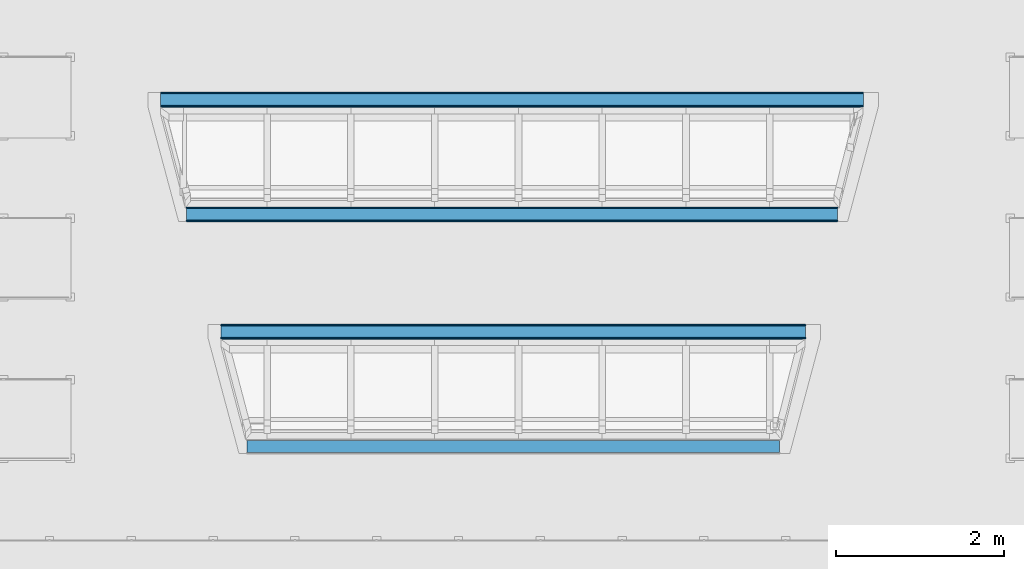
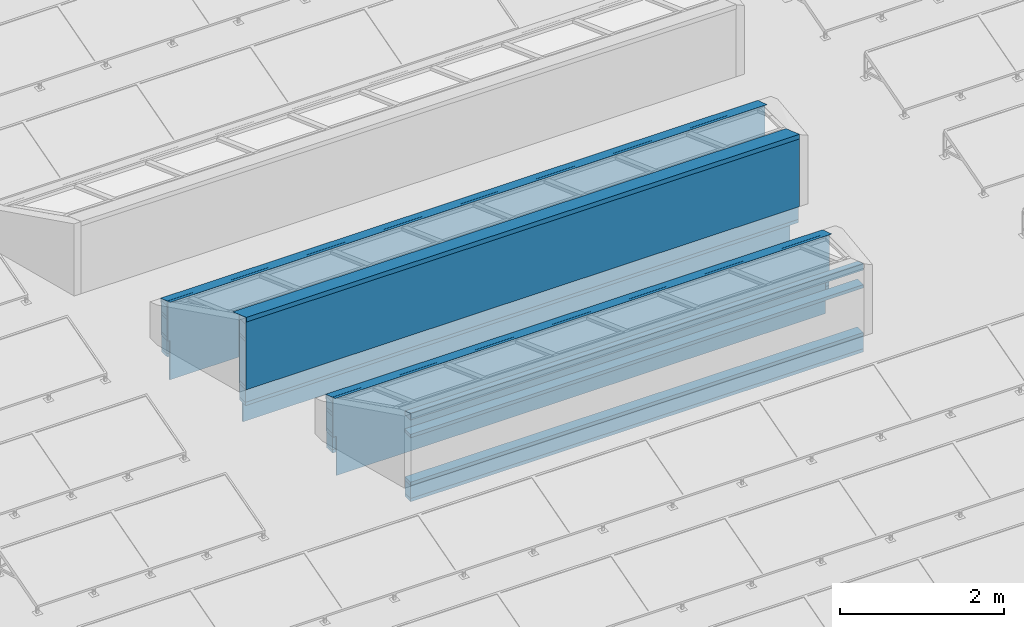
# One storey, part 11 of 20: 35 building element parts, 4 elements without a shape of their own.
"""IFC2X3 building model written with IfcOpenShell, lengths in millimetres."""

import ifcopenshell
import ifcopenshell.guid

model = None  # the IFC model being written
_history = None  # IfcOwnerHistory: only IFC2X3 demands one
_inside = {}  # id of a spatial element -> (the spatial element, [elements in it])
_under = {}  # id of a project, library or spatial element -> (it, [spatial elements below it])
_declared = {}  # id of a project -> (the project, [libraries it declares])
_typed = {}  # id of a type object -> (the type object, [elements of that type])
_made_of = {}  # id of a material, layer set ... -> (it, [elements and type objects made of it])


def new_model(schema):
    """Start an empty IFC model of exactly this schema.

    Asked for "IFC4X3", IfcOpenShell would pick the latest addendum, in which some entities
    have other attributes; the version numbers below select the first issue.
    IFC2X3 requires an IfcOwnerHistory on every rooted entity: one is made here for all.
    """
    global model, _history
    if schema == "IFC4X3":
        model = ifcopenshell.file(schema_version=(4, 3, 0, 0))
    else:
        model = ifcopenshell.file(schema=schema)
    _inside.clear()
    _under.clear()
    _declared.clear()
    _typed.clear()
    _made_of.clear()
    _history = None
    if model.schema == "IFC2X3":
        org = make("IfcOrganization", Name="unknown")
        user = make(
            "IfcPersonAndOrganization",
            ThePerson=make("IfcPerson", FamilyName="unknown"),
            TheOrganization=org,
        )
        app = make(
            "IfcApplication",
            ApplicationDeveloper=org,
            Version="unknown",
            ApplicationFullName="unknown",
            ApplicationIdentifier="unknown",
        )
        _history = make(
            "IfcOwnerHistory",
            OwningUser=user,
            OwningApplication=app,
            ChangeAction="ADDED",
            CreationDate=0,
        )
    return model


def make(cls, **values):
    """One entity of the class cls with the attributes given. An attribute that is None is left unset."""
    return model.create_entity(
        cls, **{name: value for name, value in values.items() if value is not None}
    )


def entity(cls, *values):
    """Any entity or typed value of the class cls, its attributes in the order of the schema. None: left unset."""
    e = model.create_entity(cls)
    for i, value in enumerate(values):
        if value is not None:
            e[i] = value
    return e


def rooted(cls, **values):
    """An entity with a GlobalId (a new one), such as an element, a storey or a relation."""
    return make(cls, GlobalId=ifcopenshell.guid.new(), OwnerHistory=_history, **values)


def si_unit(unit_type, name, prefix=None):
    """IfcSIUnit, for example si_unit("LENGTHUNIT", "METRE", prefix="MILLI")."""
    return make("IfcSIUnit", UnitType=unit_type, Prefix=prefix, Name=name)


def converted_unit(unit_type, name, factor, base, dimensions=None, offset=None):
    """IfcConversionBasedUnit, such as the inch: factor (a typed value) times the base unit."""
    return make(
        "IfcConversionBasedUnit"
        if offset is None
        else "IfcConversionBasedUnitWithOffset",
        ConversionOffset=offset,
        Dimensions=None
        if dimensions is None
        else entity("IfcDimensionalExponents", *dimensions),
        UnitType=unit_type,
        Name=name,
        ConversionFactor=make(
            "IfcMeasureWithUnit", ValueComponent=factor, UnitComponent=base
        ),
    )


def derived_unit(unit_type, elements):
    """IfcDerivedUnit: a product of units, each with its exponent."""
    return make(
        "IfcDerivedUnit",
        Elements=[
            make("IfcDerivedUnitElement", Unit=unit, Exponent=power)
            for unit, power in elements
        ],
        UnitType=unit_type,
    )


def money_unit(currency):
    """IfcMonetaryUnit."""
    return make("IfcMonetaryUnit", Currency=currency)


def assignment(units):
    """IfcUnitAssignment: the units of a project."""
    return None if units is None else make("IfcUnitAssignment", Units=units)


def point(xyz):
    """IfcCartesianPoint."""
    return None if xyz is None else make("IfcCartesianPoint", Coordinates=xyz)


def direction(xyz):
    """IfcDirection."""
    return None if xyz is None else make("IfcDirection", DirectionRatios=xyz)


def frame(location, z_axis=None, x_axis=None):
    """IfcAxis2Placement3D, a coordinate frame: its origin and axes. An axis left out is left unset."""
    return make(
        "IfcAxis2Placement3D",
        Location=point(location),
        Axis=direction(z_axis),
        RefDirection=direction(x_axis),
    )


def origin_with_axes():
    """The frame at (0, 0, 0) with the z axis (0, 0, 1) and the x axis (1, 0, 0) written out."""
    return frame((0.0, 0.0, 0.0), z_axis=(0.0, 0.0, 1.0), x_axis=(1.0, 0.0, 0.0))


def place(relative_to, where):
    """IfcLocalPlacement: puts the frame where relative to a parent placement (None: the world)."""
    return make(
        "IfcLocalPlacement", PlacementRelTo=relative_to, RelativePlacement=where
    )


def context(
    kind, dimensions, precision=None, world=None, true_north=None, identifier=None
):
    """IfcGeometricRepresentationContext, for example the 3D "Model" context."""
    return make(
        "IfcGeometricRepresentationContext",
        ContextIdentifier=identifier,
        ContextType=kind,
        CoordinateSpaceDimension=dimensions,
        Precision=precision,
        WorldCoordinateSystem=world,
        TrueNorth=true_north,
    )


def subcontext(parent, identifier, kind, view, scale=None):
    """IfcGeometricRepresentationSubContext, for example "Body" below "Model"."""
    return make(
        "IfcGeometricRepresentationSubContext",
        ContextIdentifier=identifier,
        ContextType=kind,
        ParentContext=parent,
        TargetScale=scale,
        TargetView=view,
    )


def project(units=None, contexts=None):
    """IfcProject with its units and contexts."""
    return rooted(
        "IfcProject",
        Name="project",
        RepresentationContexts=contexts,
        UnitsInContext=assignment(units),
    )


def spatial(cls, under=None, at=None, **own):
    """A site, building, storey or space (cls), placed at a placement, below another one or the project."""
    s = rooted(cls, ObjectPlacement=at, **own)
    if under is not None:
        _under.setdefault(under.id(), (under, []))[1].append(s)
    return s


def faces_of(points, faces, orient=None, outer=None):
    """IfcFace entities. A face is a list of loops; a loop is a list of indices into points, from 0.

    orient and outer hold one flag for each loop. By default every Orientation is true, the
    first loop of a face is its IfcFaceOuterBound and the others are IfcFaceBound.
    """
    made = []
    for i, loops in enumerate(faces):
        bounds = []
        for j, loop in enumerate(loops):
            is_outer = j == 0 if outer is None else outer[i][j]
            bounds.append(
                make(
                    "IfcFaceOuterBound" if is_outer else "IfcFaceBound",
                    Bound=make("IfcPolyLoop", Polygon=[points[k] for k in loop]),
                    Orientation=True if orient is None else orient[i][j],
                )
            )
        made.append(make("IfcFace", Bounds=bounds))
    return made


def faceted_brep(points, faces, orient=None, outer=None, voids=None):
    """IfcFacetedBrep: a solid bounded by flat faces; with voids (closed shells), ...WithVoids."""
    shared = [point(p) for p in points]
    hull = make("IfcClosedShell", CfsFaces=faces_of(shared, faces, orient, outer))
    if voids is None:
        return make("IfcFacetedBrep", Outer=hull)
    return make(
        "IfcFacetedBrepWithVoids",
        Outer=hull,
        Voids=[
            make(cls, CfsFaces=faces_of(shared, fs, o, b)) for cls, fs, o, b in voids
        ],
    )


def shape(context_of_items, identifier, shape_type, items):
    """IfcShapeRepresentation: the items that make up one representation, for example the "Body"."""
    return make(
        "IfcShapeRepresentation",
        ContextOfItems=context_of_items,
        RepresentationIdentifier=identifier,
        RepresentationType=shape_type,
        Items=items,
    )


def material(Name=None, Category=None):
    """IfcMaterial."""
    return make("IfcMaterial", Name=Name, Category=Category)


def made_of(thing, what):
    """Note that an element or type object is made of a material, layer set ...; save() writes the relation."""
    if what is not None:
        _made_of.setdefault(what.id(), (what, []))[1].append(thing)
    return thing


def type_object(cls, material=None, **own):
    """A type object (cls), such as IfcWallType, which elements share."""
    return made_of(rooted(cls, **own), material)


def element(
    cls,
    number,
    at=None,
    inside=None,
    cuts=None,
    type_object=None,
    material=None,
    context=None,
    identifier="Body",
    shape_type=None,
    held_by="IfcProductDefinitionShape",
    body=None,
    shapes=None,
    **own,
):
    """One element of the class cls, such as IfcWall. Its Tag is "e" and its number.

    at: its placement. inside: the storey or other place that contains it. cuts: it is an
    opening in that element (IfcRelVoidsElement). A single representation is given by context,
    identifier, shape_type and body (its items); several are given by shapes. held_by: the class
    of the entity that holds the representations. save() writes the other relations.
    """
    e = rooted(cls, Tag="e%d" % number, ObjectPlacement=at, **own)
    if body is not None:
        shapes = [shape(context, identifier, shape_type, body)]
    if shapes is not None:
        e.Representation = make(held_by, Representations=shapes)
    if inside is not None:
        _inside.setdefault(inside.id(), (inside, []))[1].append(e)
    if cuts is not None:
        rooted(
            "IfcRelVoidsElement", RelatingBuildingElement=cuts, RelatedOpeningElement=e
        )
    if type_object is not None:
        _typed.setdefault(type_object.id(), (type_object, []))[1].append(e)
    return made_of(e, material)


def aggregate(whole, parts):
    """IfcRelAggregates: a whole, such as a stair, and the parts it consists of."""
    return rooted("IfcRelAggregates", RelatingObject=whole, RelatedObjects=parts)


def save(model, path):
    """Write the relations noted so far, then the file.

    IfcRelAggregates (storeys below a building ...), IfcRelContainedInSpatialStructure (elements
    in a storey), IfcRelDefinesByType, IfcRelAssociatesMaterial and IfcRelDeclares: one each for
    every whole, place, type object, material and project.
    """
    for whole, parts in _under.values():
        aggregate(whole, parts)
    for where, things in _inside.values():
        rooted(
            "IfcRelContainedInSpatialStructure",
            RelatedElements=things,
            RelatingStructure=where,
        )
    for kind, things in _typed.values():
        rooted("IfcRelDefinesByType", RelatedObjects=things, RelatingType=kind)
    for what, things in _made_of.values():
        rooted("IfcRelAssociatesMaterial", RelatedObjects=things, RelatingMaterial=what)
    for by, libraries in _declared.values():
        rooted("IfcRelDeclares", RelatingContext=by, RelatedDefinitions=libraries)
    model.write(path)


model = new_model("IFC2X3")

# Units and contexts
model_context = context("Model", 3, precision=0.01, world=origin_with_axes(), true_north=direction((0.0, 1.0)))
plan_context = context("Plan", 3, precision=0.01, world=origin_with_axes(), true_north=direction((0.0, 1.0)))
body_context = subcontext(model_context, "Body", "Model", "MODEL_VIEW")
ifc_project = project(units=[si_unit("LENGTHUNIT", "METRE", prefix="MILLI"), si_unit("AREAUNIT", "SQUARE_METRE"), si_unit("VOLUMEUNIT", "CUBIC_METRE"), converted_unit("PLANEANGLEUNIT", "DEGREE", entity("IfcPlaneAngleMeasure", 0.0174532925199), si_unit("PLANEANGLEUNIT", "RADIAN"), dimensions=[0, 0, 0, 0, 0, 0, 0]), si_unit("SOLIDANGLEUNIT", "STERADIAN"), money_unit("EUR"), converted_unit("TIMEUNIT", "Year", entity("IfcTimeMeasure", 31556926.0), si_unit("TIMEUNIT", "SECOND"), dimensions=[0, 0, 1, 0, 0, 0, 0]), si_unit("MASSUNIT", "GRAM", prefix="KILO"), si_unit("THERMODYNAMICTEMPERATUREUNIT", "DEGREE_CELSIUS"), si_unit("LUMINOUSINTENSITYUNIT", "LUMEN"), si_unit("ENERGYUNIT", "JOULE", prefix="MEGA"), derived_unit("THERMALCONDUCTANCEUNIT", [(si_unit("POWERUNIT", "WATT"), 1), (si_unit("LENGTHUNIT", "METRE"), -1), (si_unit("THERMODYNAMICTEMPERATUREUNIT", "KELVIN"), -1)]), derived_unit("SPECIFICHEATCAPACITYUNIT", [(si_unit("ENERGYUNIT", "JOULE"), 1), (si_unit("MASSUNIT", "GRAM", prefix="KILO"), -1), (si_unit("THERMODYNAMICTEMPERATUREUNIT", "KELVIN"), -1)]), derived_unit("MASSDENSITYUNIT", [(si_unit("MASSUNIT", "GRAM", prefix="KILO"), 1), (si_unit("VOLUMEUNIT", "CUBIC_METRE"), -1)])], contexts=[model_context, plan_context])

# Site, building, storey
site_placement = place(None, origin_with_axes())
site = spatial("IfcSite", under=ifc_project, at=site_placement, Name="Site", CompositionType="ELEMENT")
building_placement = place(site_placement, origin_with_axes())
building = spatial("IfcBuilding", under=site, at=building_placement, Name="Naam gebouw", CompositionType="ELEMENT")
storey_placement = place(building_placement, frame((0.0, 0.0, 7920.0), z_axis=(0.0, 0.0, 1.0), x_axis=(1.0, 0.0, 0.0)))
storey = spatial("IfcBuildingStorey", under=building, at=storey_placement, Name="2e verdieping", CompositionType="ELEMENT", Elevation=7920.0)

# Beam, building element parts
beam_type_1 = type_object("IfcBeamType", Name="_TenW_27_lichtstraatrand 01 331 x 1666", PredefinedType="BEAM")
beam_1_placement = place(storey_placement, frame((13576.0133521, 20989.9869254, 0.0), z_axis=(0.0, 0.0, 1.0), x_axis=(0.0, -1.0, 0.0)))
beam_1 = element("IfcBeam", 1, at=beam_1_placement, inside=storey, type_object=beam_type_1, Name="28_Balk_Regenwaterafvoer-x", ObjectType="BEAM")
ifc_material_1 = material(Name="Hout - Multiplex groen")
building_element_part_1_placement = place(beam_1_placement, origin_with_axes())
building_element_part_1 = element("IfcBuildingElementPart", 2, at=building_element_part_1_placement, material=ifc_material_1, Name="Hout - Multiplex groen", context=body_context, shape_type="Brep", body=[
    faceted_brep([(154.991493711, 7772.87741318, 245.0), (139.99969402, 7772.87741318, 245.0), (139.999710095, 7772.87741318, 1315.97099684), (154.955420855, 7772.87741318, 1321.37430351), (139.99969402, 0.0, 245.0), (154.991493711, 0.0, 245.0), (139.999710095, 0.0, 1315.97099684), (154.955420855, 0.0, 1321.37430351)], [[[0, 1, 2, 3]], [[4, 1, 0, 5]], [[1, 4, 6, 2]], [[7, 3, 2, 6]], [[5, 0, 3, 7]], [[4, 5, 7, 6]]]),
])
ifc_material_2 = material(Name="Hout - Multiplex wit")
building_element_part_2_placement = place(beam_1_placement, origin_with_axes())
building_element_part_2 = element("IfcBuildingElementPart", 3, at=building_element_part_2_placement, material=ifc_material_2, Name="Hout - Multiplex wit", context=body_context, shape_type="Brep", body=[
    faceted_brep([(3.85360010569e-06, 7730.78284458, 245.0), (3.85360010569e-06, 7772.87741318, 245.0), (3.85360010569e-06, 7772.87741318, 1265.26127855), (3.85360010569e-06, 0.0, 1265.26127855), (3.85360010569e-06, 0.0, 245.0), (3.85360010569e-06, 48.0535202, 245.0), (3.85360010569e-06, 48.0535202, 0.0), (3.85360010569e-06, 7730.78284458, 0.0), (-14.9999970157, 7734.64217737, 245.0), (-14.9999970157, 7772.87741318, 245.0), (-14.9999970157, 7772.87741318, 1260.28052611), (-14.9999970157, 0.0, 1260.28052611), (-14.9999970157, 0.0, 245.0), (-14.9999970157, 44.0342820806, 245.0), (-14.9999970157, 44.0342820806, -340.0), (3.85360010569e-06, 48.0535202, -340.0), (3.85360010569e-06, 7730.78284458, -340.0), (-14.9999970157, 7734.64217737, -340.0)], [[[0, 1, 2, 3, 4, 5, 6, 7]], [[8, 9, 1, 0]], [[1, 9, 10, 2]], [[11, 3, 2, 10]], [[12, 4, 3, 11]], [[5, 4, 12, 13]], [[5, 13, 14, 15, 6]], [[6, 15, 16, 7]], [[8, 0, 7, 16, 17]], [[8, 17, 14, 13, 12, 11, 10, 9]], [[15, 14, 17, 16]]]),
])
ifc_material_3 = material(Name="Metaal - Aluminium")
building_element_part_3_placement = place(beam_1_placement, origin_with_axes())
building_element_part_3 = element("IfcBuildingElementPart", 4, at=building_element_part_3_placement, material=ifc_material_3, Name="Metaal - Aluminium", context=body_context, shape_type="Brep", body=[
    faceted_brep([(163.31299662, 7772.87741318, 1325.52243299), (-91.4527412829, 7772.87741318, 1235.74767224), (-91.4527412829, 0.0, 1235.74767224), (163.31299662, 0.0, 1325.52243299), (163.31299662, 7772.87741318, 1257.83227189), (161.31299662, 7772.87741318, 1257.83227189), (161.31299662, 7772.87741318, 1323.63833662), (-167.391151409, 7772.87741318, 1206.58182347), (-168.062106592, 7772.87741318, 1208.46591984), (-168.062106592, 0.0, 1208.46591984), (-167.391151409, 0.0, 1206.58182347), (161.31299662, 0.0, 1323.63833662), (161.31299662, 0.0, 1257.83227189), (163.31299662, 0.0, 1257.83227189)], [[[0, 1, 2, 3]], [[0, 4, 5, 6, 7, 8, 1]], [[1, 8, 9, 2]], [[3, 2, 9, 10, 11, 12, 13]], [[4, 0, 3, 13]], [[5, 4, 13, 12]], [[6, 5, 12, 11]], [[7, 6, 11, 10]], [[8, 7, 10, 9]]]),
])
ifc_material_4 = material(Name="Isolatie - Kunststof hard")
building_element_part_4_placement = place(beam_1_placement, origin_with_axes())
building_element_part_4 = element("IfcBuildingElementPart", 5, at=building_element_part_4_placement, material=ifc_material_4, Name="Isolatie - Kunststof hard", context=body_context, shape_type="Brep", body=[
    faceted_brep([(2.24951079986e-06, 7772.87741318, 1215.261279), (-1.70547664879e-06, 7772.87741318, 1000.00000178), (-1.70547664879e-06, 0.0, 1000.00000178), (2.24951079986e-06, 0.0, 1215.261279), (139.999708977, 7772.87741318, 1215.1080034), (139.999708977, 7772.87741318, 999.846726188), (139.999708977, 0.0, 999.846726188), (139.999708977, 0.0, 1215.1080034)], [[[0, 1, 2, 3]], [[0, 4, 5, 1]], [[1, 5, 6, 2]], [[3, 2, 6, 7]], [[4, 0, 3, 7]], [[5, 4, 7, 6]]]),
])
building_element_part_5_placement = place(beam_1_placement, origin_with_axes())
building_element_part_5 = element("IfcBuildingElementPart", 6, at=building_element_part_5_placement, material=ifc_material_4, Name="Isolatie - Kunststof hard", context=body_context, shape_type="Brep", body=[
    faceted_brep([(-6.51494147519e-06, 7772.87741318, 950.00000856), (4.06717859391e-06, 7772.87741318, 289.999999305), (4.06717859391e-06, 0.0, 289.999999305), (-6.51494147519e-06, 0.0, 950.00000856), (139.999708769, 7772.87741318, 949.846726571), (139.999708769, 7772.87741318, 289.846727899), (139.999708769, 0.0, 289.846727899), (139.999708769, 0.0, 949.846726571)], [[[0, 1, 2, 3]], [[0, 4, 5, 1]], [[1, 5, 6, 2]], [[3, 2, 6, 7]], [[4, 0, 3, 7]], [[5, 4, 7, 6]]]),
])
building_element_part_6_placement = place(beam_1_placement, origin_with_axes())
building_element_part_6 = element("IfcBuildingElementPart", 7, at=building_element_part_6_placement, material=ifc_material_4, Name="Isolatie - Kunststof hard", context=body_context, shape_type="Brep", body=[
    faceted_brep([(-1.14859233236e-08, 7772.87741318, 240.000005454), (-1.14859233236e-08, 7772.87741318, 49.9999968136), (-1.14859233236e-08, 0.0, 49.9999968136), (-1.14859233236e-08, 0.0, 240.000005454), (139.999708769, 7772.87741318, 239.846731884), (139.999708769, 7772.87741318, 49.8467196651), (139.999708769, 0.0, 49.8467196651), (139.999708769, 0.0, 239.846731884)], [[[0, 1, 2, 3]], [[0, 4, 5, 1]], [[1, 5, 6, 2]], [[3, 2, 6, 7]], [[4, 0, 3, 7]], [[5, 4, 7, 6]]]),
])
ifc_material_5 = material(Name="Hout C")
building_element_part_7_placement = place(beam_1_placement, origin_with_axes())
building_element_part_7 = element("IfcBuildingElementPart", 8, at=building_element_part_7_placement, material=ifc_material_5, Name="Hout C", context=body_context, shape_type="Brep", body=[
    faceted_brep([(139.999706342, 7772.87741318, -7.59371232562e-07), (0.0, 7772.87741318, -7.59371232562e-07), (0.0, 7772.87741318, 49.9999951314), (139.999708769, 7772.87741318, 49.8467204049), (0.0, 7730.78284557, 0.0), (139.999706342, 0.0, -7.59371232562e-07), (0.0, 0.0, -7.59371232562e-07), (0.0, 48.0535191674, 0.0), (18.3972646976, 52.9830513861, 0.0), (18.3972646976, 7726.04943471, 0.0), (0.0, 0.0, 49.9999951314), (139.999708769, 0.0, 49.8467204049), (18.3972646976, 52.9830513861, -0.0201417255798), (18.3972646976, 7726.04943471, -0.0201417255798)], [[[0, 1, 2, 3]], [[4, 1, 0, 5, 6, 7, 8, 9]], [[7, 6, 10, 2, 1, 4]], [[11, 3, 2, 10]], [[5, 0, 3, 11]], [[6, 5, 11, 10]], [[7, 12, 8]], [[12, 13, 9, 8]], [[13, 4, 9]], [[12, 7, 4, 13]]]),
])
building_element_part_8_placement = place(beam_1_placement, origin_with_axes())
building_element_part_8 = element("IfcBuildingElementPart", 9, at=building_element_part_8_placement, material=ifc_material_5, Name="Hout C", context=body_context, shape_type="Brep", body=[
    faceted_brep([(139.999706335, 7772.87741318, 239.846725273), (139.999708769, 7772.87741318, 289.846725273), (139.999708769, 0.0, 289.846725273), (139.999706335, 0.0, 239.846725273), (0.0, 7772.87741318, 240.000004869), (0.0, 7772.87741318, 290.0), (0.0, 0.0, 290.0), (0.0, 0.0, 240.000004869)], [[[0, 1, 2, 3]], [[0, 4, 5, 1]], [[1, 5, 6, 2]], [[3, 2, 6, 7]], [[4, 0, 3, 7]], [[5, 4, 7, 6]]]),
])
building_element_part_9_placement = place(beam_1_placement, origin_with_axes())
building_element_part_9 = element("IfcBuildingElementPart", 10, at=building_element_part_9_placement, material=ifc_material_5, Name="Hout C", context=body_context, shape_type="Brep", body=[
    faceted_brep([(139.999706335, 7772.87741318, 949.846725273), (139.999708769, 7772.87741318, 999.846725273), (139.999708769, 0.0, 999.846725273), (139.999706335, 0.0, 949.846725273), (0.0, 7772.87741318, 950.000004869), (0.0, 7772.87741318, 1000.0), (0.0, 0.0, 1000.0), (0.0, 0.0, 950.000004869)], [[[0, 1, 2, 3]], [[0, 4, 5, 1]], [[1, 5, 6, 2]], [[3, 2, 6, 7]], [[4, 0, 3, 7]], [[5, 4, 7, 6]]]),
])
building_element_part_10_placement = place(beam_1_placement, origin_with_axes())
building_element_part_10 = element("IfcBuildingElementPart", 11, at=building_element_part_10_placement, material=ifc_material_5, Name="Hout C", context=body_context, shape_type="Brep", body=[
    faceted_brep([(139.999706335, 7772.87741318, 1215.10799752), (139.999708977, 7772.87741318, 1315.97099805), (139.999708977, 0.0, 1315.97099805), (139.999706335, 0.0, 1215.10799752), (0.0, 7772.87741318, 1215.26127712), (0.0, 7772.87741318, 1265.26127225), (0.0, 0.0, 1265.26127225), (0.0, 0.0, 1215.26127712)], [[[0, 1, 2, 3]], [[0, 4, 5, 1]], [[1, 5, 6, 2]], [[3, 2, 6, 7]], [[4, 0, 3, 7]], [[5, 4, 7, 6]]]),
])
aggregate(beam_1, [building_element_part_1, building_element_part_2, building_element_part_3, building_element_part_4, building_element_part_5, building_element_part_6, building_element_part_7, building_element_part_8, building_element_part_9, building_element_part_10])

beam_type_2 = type_object("IfcBeamType", Name="_TenW_27_lichtstraatrand 02 232 x 1198", PredefinedType="BEAM")
beam_2_placement = place(storey_placement, frame((13267.3454464, 22219.9869499, 0.0), z_axis=(0.0, 0.0, 1.0), x_axis=(0.0, -1.0, 0.0)))
beam_2 = element("IfcBeam", 12, at=beam_2_placement, inside=storey, type_object=beam_type_2, Name="28_Balk_Regenwaterafvoer-x", ObjectType="BEAM")
building_element_part_11_placement = place(beam_2_placement, origin_with_axes())
building_element_part_11 = element("IfcBuildingElementPart", 13, at=building_element_part_11_placement, material=ifc_material_2, Name="Hout - Multiplex wit", context=body_context, shape_type="Brep", body=[
    faceted_brep([(2.59043915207e-05, 8390.21322446, 832.840020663), (2.59043915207e-05, 8390.21322446, 832.329305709), (2.59043915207e-05, 0.0, 832.329305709), (2.59043915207e-05, 0.0, 832.840020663), (1.55380759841, 8390.21322446, 832.840020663), (1.55380759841, 0.0, 832.840020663)], [[[0, 1, 2, 3]], [[0, 4, 1]], [[1, 4, 5, 2]], [[3, 2, 5]], [[4, 0, 3, 5]]]),
    faceted_brep([(15.0000282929, 8352.05668834, 245.0), (15.0000282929, 8390.21322446, 245.0), (15.0000282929, 8390.21322446, 832.840020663), (15.0000282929, 0.0, 832.840020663), (15.0000282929, 0.0, 245.0), (15.0000282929, 31.1631570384, 245.0), (15.0000282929, 31.1631570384, -340.0), (15.0000282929, 8352.05668834, -340.0), (2.59043915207e-05, 8355.91602152, 245.0), (7.75585817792e-07, 8390.21322446, 245.0), (2.59043915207e-05, 8390.21322446, 827.150461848), (2.59043915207e-05, 8390.21322446, 830.595288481), (6.72472509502, 8390.21322446, 832.840020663), (6.72472509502, 0.0, 832.840020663), (7.75585817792e-07, 0.0, 245.0), (2.59043915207e-05, 0.0, 830.595288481), (2.59043915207e-05, 0.0, 827.150461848), (2.59043915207e-05, 27.1439185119, 245.0), (-9.79995462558e-06, 27.1439089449, 0.0), (2.59043915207e-05, 27.1439185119, -340.0), (2.59043915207e-05, 8355.91602152, -340.0), (-9.79995462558e-06, 8355.91603071, 0.0)], [[[0, 1, 2, 3, 4, 5, 6, 7]], [[8, 9, 1, 0]], [[1, 9, 10, 11, 12, 2]], [[13, 3, 2, 12]], [[14, 4, 3, 13, 15, 16]], [[5, 4, 14, 17]], [[5, 17, 18, 19, 6]], [[6, 19, 20, 7]], [[8, 0, 7, 20, 21]], [[8, 21, 18, 17, 14, 16, 10, 9]], [[16, 15, 11, 10]], [[15, 13, 12, 11]], [[18, 21, 20, 19]]]),
])
building_element_part_12_placement = place(beam_2_placement, origin_with_axes())
building_element_part_12 = element("IfcBuildingElementPart", 14, at=building_element_part_12_placement, material=ifc_material_1, Name="Hout - Multiplex groen", context=body_context, shape_type="Brep", body=[
    faceted_brep([(-139.999989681, 8390.21322446, 245.0), (-154.999987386, 8390.21322446, 245.0), (-154.999987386, 8390.21322446, 777.284595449), (-140.00001365, 8390.21322446, 781.880306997), (-140.00001365, 8390.21322446, 779.648593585), (-154.999987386, 0.0, 245.0), (-139.999989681, 0.0, 245.0), (-154.999987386, 0.0, 777.284595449), (-140.00001365, 0.0, 781.880306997), (-140.00001365, 0.0, 779.648593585)], [[[0, 1, 2, 3, 4]], [[5, 1, 0, 6]], [[1, 5, 7, 2]], [[3, 2, 7, 8]], [[4, 3, 8, 9]], [[6, 0, 4, 9]], [[5, 6, 9, 8, 7]]]),
])
building_element_part_13_placement = place(beam_2_placement, origin_with_axes())
building_element_part_13 = element("IfcBuildingElementPart", 15, at=building_element_part_13_placement, material=ifc_material_3, Name="Metaal - Aluminium", context=body_context, shape_type="Brep", body=[
    faceted_brep([(-157.983405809, 8390.21322446, 712.053752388), (-157.983405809, 8390.21322446, 777.859817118), (-157.983405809, 0.0, 777.859817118), (-157.983405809, 0.0, 712.053752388), (-159.983405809, 8390.21322446, 712.053752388), (-159.983405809, 8390.21322446, 779.743913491), (2.59043915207e-05, 8390.21322446, 832.329305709), (1.55380759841, 8390.21322446, 832.840020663), (14.4590821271, 8390.21322446, 837.081900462), (72.3236044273, 8390.21322446, 858.037880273), (71.6526492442, 8390.21322446, 856.1537839), (13.788126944, 8390.21322446, 835.197804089), (6.72472509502, 8390.21322446, 832.840020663), (2.59043915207e-05, 8390.21322446, 830.595288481), (2.59043915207e-05, 0.0, 830.595288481), (6.72472509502, 0.0, 832.840020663), (13.788126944, 0.0, 835.197804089), (71.6526492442, 0.0, 856.1537839), (72.3236044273, 0.0, 858.037880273), (14.4590821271, 0.0, 837.081900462), (1.55380759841, 0.0, 832.840020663), (2.59043915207e-05, 0.0, 832.329305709), (-159.983405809, 0.0, 779.743913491), (-159.983405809, 0.0, 712.053752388)], [[[0, 1, 2, 3]], [[0, 4, 5, 6, 7, 8, 9, 10, 11, 12, 13, 1]], [[1, 13, 14, 2]], [[3, 2, 14, 15, 16, 17, 18, 19, 20, 21, 22, 23]], [[4, 0, 3, 23]], [[5, 4, 23, 22]], [[6, 5, 22, 21]], [[7, 6, 21, 20]], [[8, 7, 20, 19]], [[9, 8, 19, 18]], [[10, 9, 18, 17]], [[11, 10, 17, 16]], [[12, 11, 16, 15]], [[13, 12, 15, 14]]]),
])
building_element_part_14_placement = place(beam_2_placement, origin_with_axes())
building_element_part_14 = element("IfcBuildingElementPart", 16, at=building_element_part_14_placement, material=ifc_material_4, Name="Isolatie - Kunststof hard", context=body_context, shape_type="Brep", body=[
    faceted_brep([(-140.000023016, 8390.21322446, 601.334221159), (-6.33965058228e-06, 8390.21322446, 601.334221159), (-6.33965058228e-06, 0.0, 601.334221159), (-140.000023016, 0.0, 601.334221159), (-140.000016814, 8390.21322446, 759.453596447), (-6.33965058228e-06, 8390.21322446, 759.453596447), (-6.33965058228e-06, 0.0, 759.453596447), (-140.000016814, 0.0, 759.453596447)], [[[0, 1, 2, 3]], [[0, 4, 5, 1]], [[1, 5, 6, 2]], [[3, 2, 6, 7]], [[4, 0, 3, 7]], [[5, 4, 7, 6]]]),
])
building_element_part_15_placement = place(beam_2_placement, origin_with_axes())
building_element_part_15 = element("IfcBuildingElementPart", 17, at=building_element_part_15_placement, material=ifc_material_4, Name="Isolatie - Kunststof hard", context=body_context, shape_type="Brep", body=[
    faceted_brep([(-4.63924720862e-06, 8390.21322446, 551.33423002), (-140.000023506, 8390.21322446, 551.33423002), (-140.000023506, 0.0, 551.33423002), (-4.63924720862e-06, 0.0, 551.33423002), (0.0, 8390.21322446, 289.999998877), (-140.000032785, 8390.21322446, 289.999998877), (-140.000032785, 0.0, 289.999998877), (0.0, 0.0, 289.999998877)], [[[0, 1, 2, 3]], [[0, 4, 5, 1]], [[1, 5, 6, 2]], [[3, 2, 6, 7]], [[4, 0, 3, 7]], [[5, 4, 7, 6]]]),
])
building_element_part_16_placement = place(beam_2_placement, origin_with_axes())
building_element_part_16 = element("IfcBuildingElementPart", 18, at=building_element_part_16_placement, material=ifc_material_4, Name="Isolatie - Kunststof hard", context=body_context, shape_type="Brep", body=[
    faceted_brep([(-139.999983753, 8390.21322446, 240.000002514), (-140.000030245, 8390.21322446, 49.999996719), (-140.000030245, 0.0, 49.999996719), (-139.999983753, 0.0, 240.000002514), (0.0, 8390.21322446, 240.000002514), (0.0, 8390.21322446, 49.999996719), (0.0, 0.0, 49.999996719), (0.0, 0.0, 240.000002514)], [[[0, 1, 2, 3]], [[0, 4, 5, 1]], [[1, 5, 6, 2]], [[3, 2, 6, 7]], [[4, 0, 3, 7]], [[5, 4, 7, 6]]]),
])
building_element_part_17_placement = place(beam_2_placement, origin_with_axes())
building_element_part_17 = element("IfcBuildingElementPart", 19, at=building_element_part_17_placement, material=ifc_material_5, Name="Hout C", context=body_context, shape_type="Brep", body=[
    faceted_brep([(0.0, 8390.21322446, 289.999999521), (-140.000032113, 8390.21322446, 289.999999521), (-140.000032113, 0.0, 289.999999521), (0.0, 0.0, 289.999999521), (0.0, 8390.21322446, 240.000001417), (-139.999985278, 8390.21322446, 240.000001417), (-139.999985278, 0.0, 240.000001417), (0.0, 0.0, 240.000001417)], [[[0, 1, 2, 3]], [[0, 4, 5, 1]], [[1, 5, 6, 2]], [[3, 2, 6, 7]], [[4, 0, 3, 7]], [[5, 4, 7, 6]]]),
])
building_element_part_18_placement = place(beam_2_placement, origin_with_axes())
building_element_part_18 = element("IfcBuildingElementPart", 20, at=building_element_part_18_placement, material=ifc_material_5, Name="Hout C", context=body_context, shape_type="Brep", body=[
    faceted_brep([(-140.000022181, 8390.21322446, 551.334229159), (-6.18395645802e-06, 8390.21322446, 551.334229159), (-6.18395645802e-06, 0.0, 551.334229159), (-140.000022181, 0.0, 551.334229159), (-140.000022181, 8390.21322446, 601.334221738), (-6.18395645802e-06, 8390.21322446, 601.334221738), (-6.18395645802e-06, 0.0, 601.334221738), (-140.000022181, 0.0, 601.334221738)], [[[0, 1, 2, 3]], [[0, 4, 5, 1]], [[1, 5, 6, 2]], [[3, 2, 6, 7]], [[4, 0, 3, 7]], [[5, 4, 7, 6]]]),
])
building_element_part_19_placement = place(beam_2_placement, origin_with_axes())
building_element_part_19 = element("IfcBuildingElementPart", 21, at=building_element_part_19_placement, material=ifc_material_5, Name="Hout C", context=body_context, shape_type="Brep", body=[
    faceted_brep([(-140.000016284, 8390.21322446, 759.453595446), (-8.28825008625e-06, 8390.21322446, 759.453595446), (-8.28825008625e-06, 0.0, 759.453595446), (-140.000016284, 0.0, 759.453595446), (-140.000016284, 8390.21322446, 779.648589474), (2.34172858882e-05, 8390.21322446, 827.15045314), (2.34172858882e-05, 0.0, 827.15045314), (-140.000016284, 0.0, 779.648589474)], [[[0, 1, 2, 3]], [[0, 4, 5, 1]], [[1, 5, 6, 2]], [[3, 2, 6, 7]], [[4, 0, 3, 7]], [[5, 4, 7, 6]]]),
])
building_element_part_20_placement = place(beam_2_placement, origin_with_axes())
building_element_part_20 = element("IfcBuildingElementPart", 22, at=building_element_part_20_placement, material=ifc_material_5, Name="Hout C", context=body_context, shape_type="Brep", body=[
    faceted_brep([(0.0, 0.0, 49.9999981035), (0.0, 8390.21322446, 49.9999981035), (-140.000032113, 8390.21322446, 49.9999981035), (-140.000032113, 0.0, 49.9999981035), (0.0, 0.0, 0.0), (0.0, 8390.21322446, 0.0), (-139.999985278, 8390.21322446, 0.0), (-139.999985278, 0.0, 0.0)], [[[0, 1, 2, 3]], [[4, 5, 1, 0]], [[2, 1, 5, 6]], [[3, 2, 6, 7]], [[4, 0, 3, 7]], [[7, 6, 5, 4]]]),
])
aggregate(beam_2, [building_element_part_11, building_element_part_12, building_element_part_13, building_element_part_14, building_element_part_15, building_element_part_16, building_element_part_17, building_element_part_18, building_element_part_19, building_element_part_20])

beam_3_placement = place(storey_placement, frame((14296.6297514, 18220.0000039, 0.0), z_axis=(0.0, 0.0, 1.0), x_axis=(0.0, -1.0, 0.0)))
beam_3 = element("IfcBeam", 23, at=beam_3_placement, inside=storey, type_object=beam_type_1, Name="28_Balk_Regenwaterafvoer-x", ObjectType="BEAM")
building_element_part_21_placement = place(beam_3_placement, origin_with_axes())
building_element_part_21 = element("IfcBuildingElementPart", 24, at=building_element_part_21_placement, material=ifc_material_4, Name="Isolatie - Kunststof hard", context=body_context, shape_type="Brep", body=[
    faceted_brep([(-1.14859233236e-08, 6361.70494781, 240.000005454), (-1.14859233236e-08, 6361.70494781, 49.9999968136), (-1.14859233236e-08, 0.0, 49.9999968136), (-1.14859233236e-08, 0.0, 240.000005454), (139.999708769, 6361.70494781, 239.846731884), (139.999708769, 6361.70494781, 49.8467196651), (139.999708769, 0.0, 49.8467196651), (139.999708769, 0.0, 239.846731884)], [[[0, 1, 2, 3]], [[0, 4, 5, 1]], [[1, 5, 6, 2]], [[3, 2, 6, 7]], [[4, 0, 3, 7]], [[5, 4, 7, 6]]]),
])
building_element_part_22_placement = place(beam_3_placement, origin_with_axes())
building_element_part_22 = element("IfcBuildingElementPart", 25, at=building_element_part_22_placement, material=ifc_material_5, Name="Hout C", context=body_context, shape_type="Brep", body=[
    faceted_brep([(139.999706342, 6361.70494781, -7.59371232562e-07), (0.0, 6361.70494781, -7.59371232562e-07), (0.0, 6361.70494781, 49.9999951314), (139.999708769, 6361.70494781, 49.8467204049), (0.0, 6297.64496843, 0.0), (139.999706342, 0.0, -7.59371232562e-07), (0.0, 0.0, -7.59371232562e-07), (0.0, 69.6528785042, 0.0), (19.9999355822, 75.0118450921, 0.0), (19.9929915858, 6292.49488145, 0.0), (0.0, 0.0, 49.9999951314), (139.999708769, 0.0, 49.8467204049), (19.9999355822, 75.0118450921, -0.021896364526), (19.9929915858, 6292.49488145, -0.0218887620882)], [[[0, 1, 2, 3]], [[4, 1, 0, 5, 6, 7, 8, 9]], [[7, 6, 10, 2, 1, 4]], [[11, 3, 2, 10]], [[5, 0, 3, 11]], [[6, 5, 11, 10]], [[7, 12, 8]], [[12, 13, 9, 8]], [[13, 4, 9]], [[12, 7, 4, 13]]]),
])
building_element_part_23_placement = place(beam_3_placement, origin_with_axes())
building_element_part_23 = element("IfcBuildingElementPart", 26, at=building_element_part_23_placement, material=ifc_material_5, Name="Hout C", context=body_context, shape_type="Brep", body=[
    faceted_brep([(139.999706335, 6361.70494781, 239.846725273), (139.999708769, 6361.70494781, 289.846725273), (139.999708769, 0.0, 289.846725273), (139.999706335, 0.0, 239.846725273), (0.0, 6361.70494781, 240.000004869), (0.0, 6361.70494781, 290.0), (0.0, 0.0, 290.0), (0.0, 0.0, 240.000004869)], [[[0, 1, 2, 3]], [[0, 4, 5, 1]], [[1, 5, 6, 2]], [[3, 2, 6, 7]], [[4, 0, 3, 7]], [[5, 4, 7, 6]]]),
])
building_element_part_24_placement = place(beam_3_placement, origin_with_axes())
building_element_part_24 = element("IfcBuildingElementPart", 27, at=building_element_part_24_placement, material=ifc_material_5, Name="Hout C", context=body_context, shape_type="Brep", body=[
    faceted_brep([(139.999706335, 6361.70494781, 949.846725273), (139.999708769, 6361.70494781, 999.846725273), (139.999708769, 0.0, 999.846725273), (139.999706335, 0.0, 949.846725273), (0.0, 6361.70494781, 950.000004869), (0.0, 6361.70494781, 1000.0), (0.0, 0.0, 1000.0), (0.0, 0.0, 950.000004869)], [[[0, 1, 2, 3]], [[0, 4, 5, 1]], [[1, 5, 6, 2]], [[3, 2, 6, 7]], [[4, 0, 3, 7]], [[5, 4, 7, 6]]]),
])
building_element_part_25_placement = place(beam_3_placement, origin_with_axes())
building_element_part_25 = element("IfcBuildingElementPart", 28, at=building_element_part_25_placement, material=ifc_material_5, Name="Hout C", context=body_context, shape_type="Brep", body=[
    faceted_brep([(139.999706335, 6361.70494781, 1215.10799752), (139.999708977, 6361.70494781, 1315.97099805), (139.999708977, 0.0, 1315.97099805), (139.999706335, 0.0, 1215.10799752), (0.0, 6361.70494781, 1215.26127712), (0.0, 6361.70494781, 1265.26127225), (0.0, 0.0, 1265.26127225), (0.0, 0.0, 1215.26127712)], [[[0, 1, 2, 3]], [[0, 4, 5, 1]], [[1, 5, 6, 2]], [[3, 2, 6, 7]], [[4, 0, 3, 7]], [[5, 4, 7, 6]]]),
])
aggregate(beam_3, [building_element_part_21, building_element_part_22, building_element_part_23, building_element_part_24, building_element_part_25])

beam_4_placement = place(storey_placement, frame((13987.9618458, 19450.0000283, 0.0), z_axis=(0.0, 0.0, 1.0), x_axis=(0.0, -1.0, 0.0)))
beam_4 = element("IfcBeam", 29, at=beam_4_placement, inside=storey, type_object=beam_type_2, Name="28_Balk_Regenwaterafvoer-x", ObjectType="BEAM")
building_element_part_26_placement = place(beam_4_placement, origin_with_axes())
building_element_part_26 = element("IfcBuildingElementPart", 30, at=building_element_part_26_placement, material=ifc_material_2, Name="Hout - Multiplex wit", context=body_context, shape_type="Brep", body=[
    faceted_brep([(2.59043915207e-05, 6979.04075909, 832.840020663), (2.59043915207e-05, 6979.04075909, 832.329305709), (2.59043915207e-05, 0.0, 832.329305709), (2.59043915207e-05, 0.0, 832.840020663), (1.55380759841, 6979.04075909, 832.840020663), (1.55380759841, 0.0, 832.840020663)], [[[0, 1, 2, 3]], [[0, 4, 1]], [[1, 4, 5, 2]], [[3, 2, 5]], [[4, 0, 3, 5]]]),
    faceted_brep([(15.0000282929, 6919.29033093, 245.0), (15.0000282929, 6979.04075909, 245.0), (15.0000282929, 6979.04075909, 832.840020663), (15.0000282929, 0.0, 832.840020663), (15.0000282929, 0.0, 245.0), (15.0000282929, 52.7625163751, 245.0), (15.0000282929, 52.7625163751, -340.0), (15.0000282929, 6919.29033093, -340.0), (2.59043915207e-05, 6923.15425077, 245.0), (7.75585817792e-07, 6979.04075909, 245.0), (2.59043915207e-05, 6979.04075909, 827.150461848), (2.59043915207e-05, 6979.04075909, 830.595288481), (6.72472509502, 6979.04075909, 832.840020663), (6.72472509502, 0.0, 832.840020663), (7.75585817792e-07, 0.0, 245.0), (2.59043915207e-05, 0.0, 830.595288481), (2.59043915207e-05, 0.0, 827.150461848), (2.59043915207e-05, 48.7432778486, 245.0), (-9.79995462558e-06, 48.7432682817, 0.0), (2.59043915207e-05, 48.7432778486, -340.0), (2.59043915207e-05, 6923.15425077, -340.0), (-9.79995462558e-06, 6923.15425997, 0.0)], [[[0, 1, 2, 3, 4, 5, 6, 7]], [[8, 9, 1, 0]], [[1, 9, 10, 11, 12, 2]], [[13, 3, 2, 12]], [[14, 4, 3, 13, 15, 16]], [[5, 4, 14, 17]], [[5, 17, 18, 19, 6]], [[6, 19, 20, 7]], [[8, 0, 7, 20, 21]], [[8, 21, 18, 17, 14, 16, 10, 9]], [[16, 15, 11, 10]], [[15, 13, 12, 11]], [[18, 21, 20, 19]]]),
])
building_element_part_27_placement = place(beam_4_placement, origin_with_axes())
building_element_part_27 = element("IfcBuildingElementPart", 31, at=building_element_part_27_placement, material=ifc_material_1, Name="Hout - Multiplex groen", context=body_context, shape_type="Brep", body=[
    faceted_brep([(-139.999989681, 6979.04075909, 245.0), (-154.999987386, 6979.04075909, 245.0), (-154.999987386, 6979.04075909, 777.284595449), (-140.00001365, 6979.04075909, 781.880306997), (-140.00001365, 6979.04075909, 779.648593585), (-154.999987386, 0.0, 245.0), (-139.999989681, 0.0, 245.0), (-154.999987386, 0.0, 777.284595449), (-140.00001365, 0.0, 781.880306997), (-140.00001365, 0.0, 779.648593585)], [[[0, 1, 2, 3, 4]], [[5, 1, 0, 6]], [[1, 5, 7, 2]], [[3, 2, 7, 8]], [[4, 3, 8, 9]], [[6, 0, 4, 9]], [[5, 6, 9, 8, 7]]]),
])
building_element_part_28_placement = place(beam_4_placement, origin_with_axes())
building_element_part_28 = element("IfcBuildingElementPart", 32, at=building_element_part_28_placement, material=ifc_material_3, Name="Metaal - Aluminium", context=body_context, shape_type="Brep", body=[
    faceted_brep([(-157.983405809, 6979.04075909, 712.053752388), (-157.983405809, 6979.04075909, 777.859817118), (-157.983405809, 0.0, 777.859817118), (-157.983405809, 0.0, 712.053752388), (-159.983405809, 6979.04075909, 712.053752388), (-159.983405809, 6979.04075909, 779.743913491), (2.59043915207e-05, 6979.04075909, 832.329305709), (1.55380759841, 6979.04075909, 832.840020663), (14.4590821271, 6979.04075909, 837.081900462), (72.3236044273, 6979.04075909, 858.037880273), (71.6526492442, 6979.04075909, 856.1537839), (13.788126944, 6979.04075909, 835.197804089), (6.72472509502, 6979.04075909, 832.840020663), (2.59043915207e-05, 6979.04075909, 830.595288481), (2.59043915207e-05, 0.0, 830.595288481), (6.72472509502, 0.0, 832.840020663), (13.788126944, 0.0, 835.197804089), (71.6526492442, 0.0, 856.1537839), (72.3236044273, 0.0, 858.037880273), (14.4590821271, 0.0, 837.081900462), (1.55380759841, 0.0, 832.840020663), (2.59043915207e-05, 0.0, 832.329305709), (-159.983405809, 0.0, 779.743913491), (-159.983405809, 0.0, 712.053752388)], [[[0, 1, 2, 3]], [[0, 4, 5, 6, 7, 8, 9, 10, 11, 12, 13, 1]], [[1, 13, 14, 2]], [[3, 2, 14, 15, 16, 17, 18, 19, 20, 21, 22, 23]], [[4, 0, 3, 23]], [[5, 4, 23, 22]], [[6, 5, 22, 21]], [[7, 6, 21, 20]], [[8, 7, 20, 19]], [[9, 8, 19, 18]], [[10, 9, 18, 17]], [[11, 10, 17, 16]], [[12, 11, 16, 15]], [[13, 12, 15, 14]]]),
])
building_element_part_29_placement = place(beam_4_placement, origin_with_axes())
building_element_part_29 = element("IfcBuildingElementPart", 33, at=building_element_part_29_placement, material=ifc_material_4, Name="Isolatie - Kunststof hard", context=body_context, shape_type="Brep", body=[
    faceted_brep([(-140.000023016, 6979.04075909, 601.334221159), (-6.33965058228e-06, 6979.04075909, 601.334221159), (-6.33965058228e-06, 0.0, 601.334221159), (-140.000023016, 0.0, 601.334221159), (-140.000016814, 6979.04075909, 759.453596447), (-6.33965058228e-06, 6979.04075909, 759.453596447), (-6.33965058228e-06, 0.0, 759.453596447), (-140.000016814, 0.0, 759.453596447)], [[[0, 1, 2, 3]], [[0, 4, 5, 1]], [[1, 5, 6, 2]], [[3, 2, 6, 7]], [[4, 0, 3, 7]], [[5, 4, 7, 6]]]),
])
building_element_part_30_placement = place(beam_4_placement, origin_with_axes())
building_element_part_30 = element("IfcBuildingElementPart", 34, at=building_element_part_30_placement, material=ifc_material_4, Name="Isolatie - Kunststof hard", context=body_context, shape_type="Brep", body=[
    faceted_brep([(-4.63924720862e-06, 6979.04075909, 551.33423002), (-140.000023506, 6979.04075909, 551.33423002), (-140.000023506, 0.0, 551.33423002), (-4.63924720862e-06, 0.0, 551.33423002), (0.0, 6979.04075909, 289.999998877), (-140.000032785, 6979.04075909, 289.999998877), (-140.000032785, 0.0, 289.999998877), (0.0, 0.0, 289.999998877)], [[[0, 1, 2, 3]], [[0, 4, 5, 1]], [[1, 5, 6, 2]], [[3, 2, 6, 7]], [[4, 0, 3, 7]], [[5, 4, 7, 6]]]),
])
building_element_part_31_placement = place(beam_4_placement, origin_with_axes())
building_element_part_31 = element("IfcBuildingElementPart", 35, at=building_element_part_31_placement, material=ifc_material_4, Name="Isolatie - Kunststof hard", context=body_context, shape_type="Brep", body=[
    faceted_brep([(-139.999983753, 6979.04075909, 240.000002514), (-140.000030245, 6979.04075909, 49.999996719), (-140.000030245, 0.0, 49.999996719), (-139.999983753, 0.0, 240.000002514), (0.0, 6979.04075909, 240.000002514), (0.0, 6979.04075909, 49.999996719), (0.0, 0.0, 49.999996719), (0.0, 0.0, 240.000002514)], [[[0, 1, 2, 3]], [[0, 4, 5, 1]], [[1, 5, 6, 2]], [[3, 2, 6, 7]], [[4, 0, 3, 7]], [[5, 4, 7, 6]]]),
])
building_element_part_32_placement = place(beam_4_placement, origin_with_axes())
building_element_part_32 = element("IfcBuildingElementPart", 36, at=building_element_part_32_placement, material=ifc_material_5, Name="Hout C", context=body_context, shape_type="Brep", body=[
    faceted_brep([(0.0, 6979.04075909, 289.999999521), (-140.000032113, 6979.04075909, 289.999999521), (-140.000032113, 0.0, 289.999999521), (0.0, 0.0, 289.999999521), (0.0, 6979.04075909, 240.000001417), (-139.999985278, 6979.04075909, 240.000001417), (-139.999985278, 0.0, 240.000001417), (0.0, 0.0, 240.000001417)], [[[0, 1, 2, 3]], [[0, 4, 5, 1]], [[1, 5, 6, 2]], [[3, 2, 6, 7]], [[4, 0, 3, 7]], [[5, 4, 7, 6]]]),
])
building_element_part_33_placement = place(beam_4_placement, origin_with_axes())
building_element_part_33 = element("IfcBuildingElementPart", 37, at=building_element_part_33_placement, material=ifc_material_5, Name="Hout C", context=body_context, shape_type="Brep", body=[
    faceted_brep([(-140.000022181, 6979.04075909, 551.334229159), (-6.18395645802e-06, 6979.04075909, 551.334229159), (-6.18395645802e-06, 0.0, 551.334229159), (-140.000022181, 0.0, 551.334229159), (-140.000022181, 6979.04075909, 601.334221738), (-6.18395645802e-06, 6979.04075909, 601.334221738), (-6.18395645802e-06, 0.0, 601.334221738), (-140.000022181, 0.0, 601.334221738)], [[[0, 1, 2, 3]], [[0, 4, 5, 1]], [[1, 5, 6, 2]], [[3, 2, 6, 7]], [[4, 0, 3, 7]], [[5, 4, 7, 6]]]),
])
building_element_part_34_placement = place(beam_4_placement, origin_with_axes())
building_element_part_34 = element("IfcBuildingElementPart", 38, at=building_element_part_34_placement, material=ifc_material_5, Name="Hout C", context=body_context, shape_type="Brep", body=[
    faceted_brep([(-140.000016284, 6979.04075909, 759.453595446), (-8.28825008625e-06, 6979.04075909, 759.453595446), (-8.28825008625e-06, 0.0, 759.453595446), (-140.000016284, 0.0, 759.453595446), (-140.000016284, 6979.04075909, 779.648589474), (2.34172858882e-05, 6979.04075909, 827.15045314), (2.34172858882e-05, 0.0, 827.15045314), (-140.000016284, 0.0, 779.648589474)], [[[0, 1, 2, 3]], [[0, 4, 5, 1]], [[1, 5, 6, 2]], [[3, 2, 6, 7]], [[4, 0, 3, 7]], [[5, 4, 7, 6]]]),
])
building_element_part_35_placement = place(beam_4_placement, origin_with_axes())
building_element_part_35 = element("IfcBuildingElementPart", 39, at=building_element_part_35_placement, material=ifc_material_5, Name="Hout C", context=body_context, shape_type="Brep", body=[
    faceted_brep([(0.0, 0.0, 49.9999981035), (0.0, 6979.04075909, 49.9999981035), (-140.000032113, 6979.04075909, 49.9999981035), (-140.000032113, 0.0, 49.9999981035), (0.0, 0.0, 0.0), (0.0, 6979.04075909, 0.0), (-139.999985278, 6979.04075909, 0.0), (-139.999985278, 0.0, 0.0)], [[[0, 1, 2, 3]], [[4, 5, 1, 0]], [[2, 1, 5, 6]], [[3, 2, 6, 7]], [[4, 0, 3, 7]], [[7, 6, 5, 4]]]),
])
aggregate(beam_4, [building_element_part_26, building_element_part_27, building_element_part_28, building_element_part_29, building_element_part_30, building_element_part_31, building_element_part_32, building_element_part_33, building_element_part_34, building_element_part_35])

save(model, "model.ifc")
